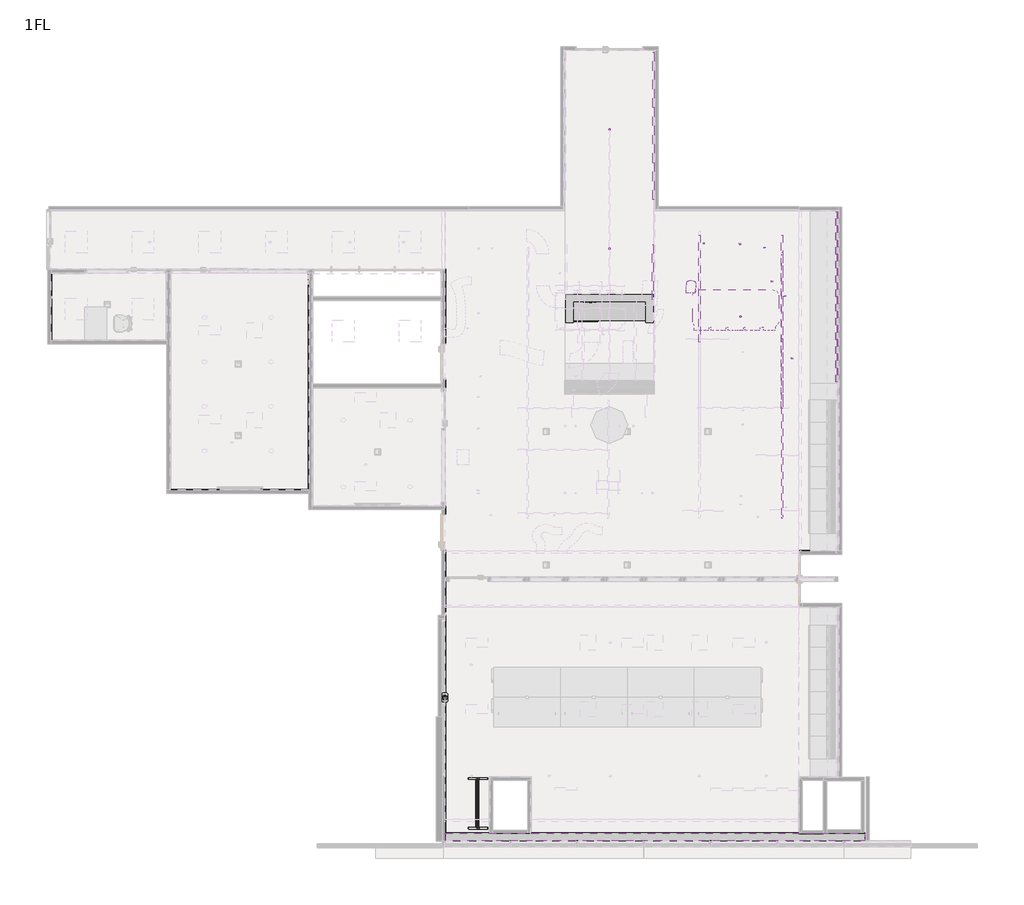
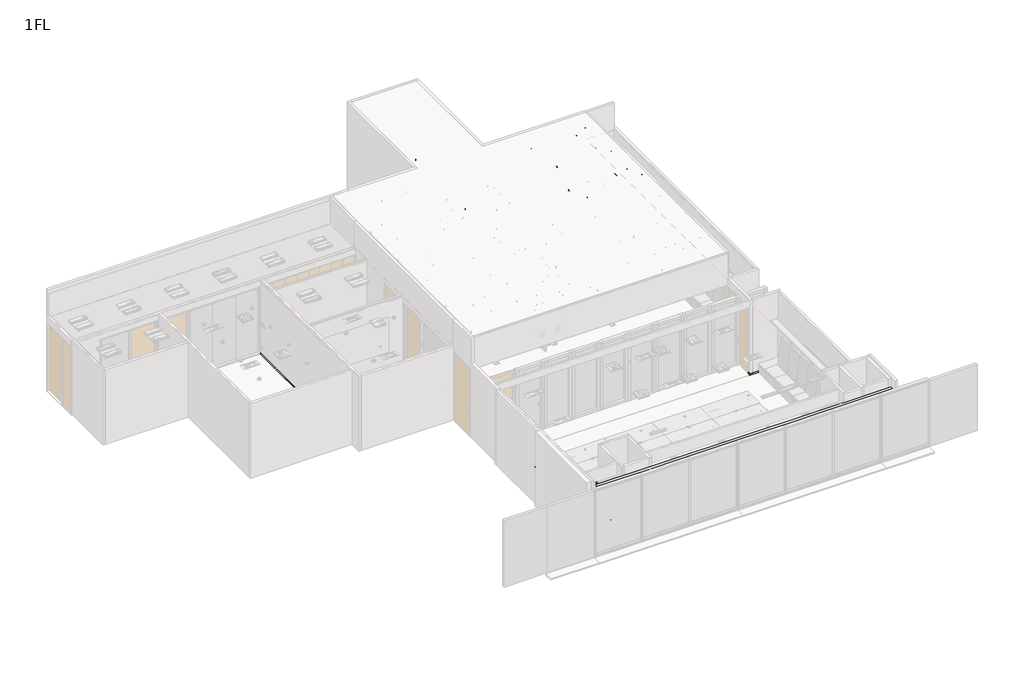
# One storey, part 13 of 13: 25 proxies, 17 light fixtures, 4 fire suppression terminals, 2 switching devices, 1 damper, 1 duct segment.
"""IFC4 building model written with IfcOpenShell, lengths in millimetres."""

from ifc_helpers import new_model, si_unit, frame, origin, place, context, project, spatial, polyline, circle_curve, ellipse_curve, outline, extrude, transform, mapped, element, save
from ifc_brep_helpers import plane_surface, cylinder_surface, advanced_brep
from components import generic_models_21183628, mechanical_equipment_cf5eef75, mechanical_equipment_50cd52de, mechanical_equipment_bcc856de, duct_hanger_845b88a9, duct_hanger_9e32e5b0, duct_hanger_ff72c5ab, perimeter_perimeter_b49f30dc, perimeter_blind_perimeter_blind_f3f7109a, whiteboard_01_whiteboard_01_52306a3d, office_counter_office_counter_5a5246db, chamber_02_chamber_02_f8d2bf4d, sprinkler_01_sprinkler_01_96afb536, line_light_f_3fc1ab52, line_light_f18_eebac381, line_light_l1151_cde67e3c, spot_light_spot_light_b3140007, outlet_01_outlet_443ef776

model = new_model("IFC4")

# Units and contexts
model_context = context("Model", 3, world=origin())
ifc_project = project(units=[si_unit("LENGTHUNIT", "METRE", prefix="MILLI")], contexts=[model_context])

# Site, building, storey
site = spatial("IfcSite", under=ifc_project)
building = spatial("IfcBuilding", under=site)
storey = spatial("IfcBuildingStorey", under=building, Name="1FL", Elevation=500.0)

# Proxies
placement = place(None, origin())
generic_models_shape = generic_models_21183628(model_context)
element("IfcBuildingElementProxy", 1, Name="Webcam_01 : webcam_01", ObjectType="Webcam_01 : webcam_01", at=placement, inside=storey, context=model_context, shape_type="MappedRepresentation", body=[
    mapped(generic_models_shape, transform((11581.5679696, -8079.0124966, 500.0), x_axis=(5.541231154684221e-06, 0.9999999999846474, 0.0), y_axis=(-0.9999999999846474, 5.541231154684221e-06, 0.0), z_axis=(0.0, 0.0, 1.0))),
])
mechanical_equipment_shape = mechanical_equipment_cf5eef75(model_context)
element("IfcBuildingElementProxy", 2, Name="Beared-Hanger : BearedHanger", ObjectType="Beared-Hanger : BearedHanger", at=placement, inside=storey, context=model_context, shape_type="MappedRepresentation", body=[
    mapped(mechanical_equipment_shape, transform((20676.280188, 2953.8665989, 4470.0), x_axis=(0.00012207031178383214, 0.9999999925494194, 0.0), y_axis=(-0.9999999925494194, 0.00012207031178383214, 0.0), z_axis=(0.0, 0.0, 1.0))),
])
mechanical_equipment_2_shape = mechanical_equipment_50cd52de(model_context)
element("IfcBuildingElementProxy", 3, Name="Beared-Hanger : BearedHanger", ObjectType="Beared-Hanger : BearedHanger", at=placement, inside=storey, context=model_context, shape_type="MappedRepresentation", body=[
    mapped(mechanical_equipment_2_shape, transform((20676.4485665, 662.907676, 4470.0), x_axis=(0.0, 1.0, 0.0), y_axis=(-1.0, 0.0, 0.0), z_axis=(0.0, 0.0, 1.0))),
])
mechanical_equipment_3_shape = mechanical_equipment_bcc856de(model_context)
element("IfcBuildingElementProxy", 4, Name="Beared-Hanger : BearedHanger", ObjectType="Beared-Hanger : BearedHanger", at=placement, inside=storey, context=model_context, shape_type="MappedRepresentation", body=[
    mapped(mechanical_equipment_3_shape, transform((18448.1429809, 2953.8665989, 4470.0), x_axis=(0.00012207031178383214, 0.9999999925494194, 0.0), y_axis=(-0.9999999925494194, 0.00012207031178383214, 0.0), z_axis=(0.0, 0.0, 1.0))),
])
element("IfcBuildingElementProxy", 5, Name="B-3", ObjectType="B-3", at=placement, inside=storey, context=model_context, shape_type="SweptSolid", body=[
    extrude(outline(polyline([(21152.0692788, -11750.8073642), (21132.0692788, -11750.8073642), (21132.0692788, -10225.3078391), (21152.0692788, -10245.3078391), (21152.0692788, -11750.8073642)])), frame((0.0, 0.0, 500.0), z_axis=(0.0, 0.0, 1.0), x_axis=(1.0, 0.0, 0.0)), (0.0, 0.0, 1.0), 60.0),
])
element("IfcBuildingElementProxy", 6, Name="B-3", ObjectType="B-3", at=placement, inside=storey, context=model_context, shape_type="SweptSolid", body=[
    extrude(outline(polyline([(21152.0692788, -10245.3078391), (21132.0692788, -10225.3078391), (21440.569283, -10225.3078391), (21440.569283, -10245.3078391), (21152.0692788, -10245.3078391)])), frame((0.0, 0.0, 500.0), z_axis=(0.0, 0.0, 1.0), x_axis=(1.0, 0.0, 0.0)), (0.0, 0.0, 1.0), 60.0),
])
element("IfcBuildingElementProxy", 7, Name="B-3", ObjectType="B-3", at=placement, inside=storey, context=model_context, shape_type="SweptSolid", body=[
    extrude(outline(polyline([(11514.5680096, -11953.3067556), (11494.5680096, -11953.3067556), (11494.5680096, -7616.6876279), (11514.5680096, -7616.6876279), (11514.5680096, -11953.3067556)])), frame((0.0, 0.0, 500.0), z_axis=(0.0, 0.0, 1.0), x_axis=(1.0, 0.0, 0.0)), (0.0, 0.0, 1.0), 60.0),
])
element("IfcBuildingElementProxy", 8, Name="B-3", ObjectType="B-3", at=placement, inside=storey, context=model_context, shape_type="SweptSolid", body=[
    extrude(outline(polyline([(12795.5692789, -10235.8078391), (12775.5692789, -10215.8078391), (13910.5692789, -10215.8078391), (13890.5692789, -10235.8078391), (12795.5692789, -10235.8078391)])), frame((0.0, 0.0, 500.0), z_axis=(0.0, 0.0, 1.0), x_axis=(1.0, 0.0, 0.0)), (0.0, 0.0, 1.0), 60.0),
    extrude(outline(polyline([(13890.5692789, -10235.8078391), (13910.5692789, -10215.8078391), (13910.5692789, -11738.3078178), (13890.5692789, -11738.3078178), (13890.5692789, -10235.8078391)])), frame((0.0, 0.0, 500.0), z_axis=(0.0, 0.0, 1.0), x_axis=(1.0, 0.0, 0.0)), (0.0, 0.0, 1.0), 60.0),
    extrude(outline(polyline([(12775.5692789, -10215.8078391), (12795.5692789, -10235.8078391), (12795.5692789, -11738.3078178), (12775.5692789, -11738.3078178), (12775.5692789, -10215.8078391)])), frame((0.0, 0.0, 500.0), z_axis=(0.0, 0.0, 1.0), x_axis=(1.0, 0.0, 0.0)), (0.0, 0.0, 1.0), 60.0),
])
element("IfcBuildingElementProxy", 9, Name="B-3", ObjectType="B-3", at=placement, inside=storey, context=model_context, shape_type="SweptSolid", body=[
    extrude(outline(polyline([(21142.5692788, -11750.8073642), (21122.5692788, -11750.8073642), (21122.5692788, -10215.8078391), (21142.5692788, -10235.8078391), (21142.5692788, -11750.8073642)])), frame((0.0, 0.0, 500.0), z_axis=(0.0, 0.0, 1.0), x_axis=(1.0, 0.0, 0.0)), (0.0, 0.0, 1.0), 60.0),
])
element("IfcBuildingElementProxy", 10, Name="B-3", ObjectType="B-3", at=placement, inside=storey, context=model_context, shape_type="SweptSolid", body=[
    extrude(outline(polyline([(21142.5692788, -10235.8078391), (21122.5692788, -10215.8078391), (21855.3192871, -10215.8078391), (21855.3192871, -10235.8078391), (21142.5692788, -10235.8078391)])), frame((0.0, 0.0, 500.0), z_axis=(0.0, 0.0, 1.0), x_axis=(1.0, 0.0, 0.0)), (0.0, 0.0, 1.0), 60.0),
])
element("IfcBuildingElementProxy", 11, Name="B-3", ObjectType="B-3", at=placement, inside=storey, context=model_context, shape_type="SweptSolid", body=[
    extrude(outline(polyline([(7923.0680096, -2490.4226633), (7903.0680096, -2470.4226633), (7903.0680096, 3371.9345805), (7923.0680096, 3371.9345805), (7923.0680096, -2490.4226633)])), frame((0.0, 0.0, 500.0), z_axis=(0.0, 0.0, 1.0), x_axis=(1.0, 0.0, 0.0)), (0.0, 0.0, 1.0), 60.0),
    extrude(outline(polyline([(4170.4103689, -2490.4226633), (4190.4103689, -2470.4226633), (7903.0680096, -2470.4226633), (7923.0680096, -2490.4226633), (4170.4103689, -2490.4226633)])), frame((0.0, 0.0, 500.0), z_axis=(0.0, 0.0, 1.0), x_axis=(1.0, 0.0, 0.0)), (0.0, 0.0, 1.0), 60.0),
    extrude(outline(polyline([(4170.4103689, 3371.9345805), (4190.4103689, 3371.9345805), (4190.4103689, -2470.4226633), (4170.4103689, -2490.4226633), (4170.4103689, 3371.9345805)])), frame((0.0, 0.0, 500.0), z_axis=(0.0, 0.0, 1.0), x_axis=(1.0, 0.0, 0.0)), (0.0, 0.0, 1.0), 60.0),
])
element("IfcBuildingElementProxy", 12, Name="B-3", ObjectType="B-3", at=placement, inside=storey, context=model_context, shape_type="SweptSolid", body=[
    extrude(outline(polyline([(4089.3903689, 1547.4345805), (4069.3903689, 1567.4345805), (4069.3903689, 3371.9345805), (4089.3903689, 3371.9345805), (4089.3903689, 1547.4345805)])), frame((0.0, 0.0, 500.0), z_axis=(0.0, 0.0, 1.0), x_axis=(1.0, 0.0, 0.0)), (0.0, 0.0, 1.0), 60.0),
    extrude(outline(polyline([(958.1488246, 1547.4345805), (978.1488246, 1567.4345805), (4069.3903689, 1567.4345805), (4089.3903689, 1547.4345805), (958.1488246, 1547.4345805)])), frame((0.0, 0.0, 500.0), z_axis=(0.0, 0.0, 1.0), x_axis=(1.0, 0.0, 0.0)), (0.0, 0.0, 1.0), 60.0),
    extrude(outline(polyline([(958.1488246, 3362.4345805), (978.1488246, 3362.4345805), (978.1488246, 1567.4345805), (958.1488246, 1547.4345805), (958.1488246, 3362.4345805)])), frame((0.0, 0.0, 500.0), z_axis=(0.0, 0.0, 1.0), x_axis=(1.0, 0.0, 0.0)), (0.0, 0.0, 1.0), 60.0),
])
element("IfcBuildingElementProxy", 13, Name="B-3", ObjectType="B-3", at=placement, inside=storey, context=model_context, shape_type="SweptSolid", body=[
    extrude(outline(polyline([(11603.5692788, 1454.6264721), (11583.5692788, 1454.6264721), (11583.5692788, 3458.4345805), (11603.5692788, 3478.4345805), (11603.5692788, 1454.6264721)])), frame((0.0, 0.0, 500.0), z_axis=(0.0, 0.0, 1.0), x_axis=(1.0, 0.0, 0.0)), (0.0, 0.0, 1.0), 60.0),
    extrude(outline(polyline([(11603.5692788, 273.6264721), (11583.5692788, 273.6264721), (11583.5692788, 514.6264721), (11603.5692788, 514.6264721), (11603.5692788, 273.6264721)])), frame((0.0, 0.0, 500.0), z_axis=(0.0, 0.0, 1.0), x_axis=(1.0, 0.0, 0.0)), (0.0, 0.0, 1.0), 60.0),
    extrude(outline(polyline([(11603.5692788, -3149.7997031), (11583.5692788, -3149.7997031), (11583.5692788, -2909.2797031), (11603.5692788, -2909.2797031), (11603.5692788, -3149.7997031)])), frame((0.0, 0.0, 500.0), z_axis=(0.0, 0.0, 1.0), x_axis=(1.0, 0.0, 0.0)), (0.0, 0.0, 1.0), 60.0),
    extrude(outline(polyline([(11603.5692788, -11730.8078391), (11583.5692788, -11730.8078391), (11583.5692788, -4089.7997031), (11603.5692788, -4089.7997031), (11603.5692788, -11730.8078391)])), frame((0.0, 0.0, 500.0), z_axis=(0.0, 0.0, 1.0), x_axis=(1.0, 0.0, 0.0)), (0.0, 0.0, 1.0), 60.0),
    extrude(outline(polyline([(1874.3703689, 3478.4345805), (1874.3703689, 3458.4345805), (952.6488246, 3458.4345805), (952.6488246, 3478.4345805), (1874.3703689, 3478.4345805)])), frame((0.0, 0.0, 500.0), z_axis=(0.0, 0.0, 1.0), x_axis=(1.0, 0.0, 0.0)), (0.0, 0.0, 1.0), 60.0),
    extrude(outline(polyline([(4185.4103689, 3478.4345805), (4185.4103689, 3458.4345805), (4074.3703689, 3458.4345805), (4074.3703689, 3478.4345805), (4185.4103689, 3478.4345805)])), frame((0.0, 0.0, 500.0), z_axis=(0.0, 0.0, 1.0), x_axis=(1.0, 0.0, 0.0)), (0.0, 0.0, 1.0), 60.0),
    extrude(outline(polyline([(8020.8186442, 3478.4345805), (8020.8186442, 3458.4345805), (7908.0480096, 3458.4345805), (7908.0480096, 3478.4345805), (8020.8186442, 3478.4345805)])), frame((0.0, 0.0, 500.0), z_axis=(0.0, 0.0, 1.0), x_axis=(1.0, 0.0, 0.0)), (0.0, 0.0, 1.0), 60.0),
    extrude(outline(polyline([(11603.5692788, 3478.4345805), (11583.5692788, 3458.4345805), (11485.8186442, 3458.4345805), (11485.8186442, 3478.4345805), (11603.5692788, 3478.4345805)])), frame((0.0, 0.0, 500.0), z_axis=(0.0, 0.0, 1.0), x_axis=(1.0, 0.0, 0.0)), (0.0, 0.0, 1.0), 60.0),
])
element("IfcBuildingElementProxy", 14, Name="B-3", ObjectType="B-3", at=placement, inside=storey, context=model_context, shape_type="SweptSolid", body=[
    extrude(outline(polyline([(8024.0680096, -2904.2797031), (8004.0680096, -2924.2797031), (8004.0680096, 288.6264721), (8024.0680096, 268.6264721), (8024.0680096, -2904.2797031)])), frame((0.0, 0.0, 500.0), z_axis=(0.0, 0.0, 1.0), x_axis=(1.0, 0.0, 0.0)), (0.0, 0.0, 1.0), 60.0),
    extrude(outline(polyline([(8024.0680096, 268.6264721), (8004.0680096, 288.6264721), (11487.5692788, 288.6264721), (11487.5692788, 268.6264721), (8024.0680096, 268.6264721)])), frame((0.0, 0.0, 500.0), z_axis=(0.0, 0.0, 1.0), x_axis=(1.0, 0.0, 0.0)), (0.0, 0.0, 1.0), 60.0),
    extrude(outline(polyline([(11482.0692788, -2904.2797031), (11482.0692788, -2924.2797031), (8004.0680096, -2924.2797031), (8024.0680096, -2904.2797031), (11482.0692788, -2904.2797031)])), frame((0.0, 0.0, 500.0), z_axis=(0.0, 0.0, 1.0), x_axis=(1.0, 0.0, 0.0)), (0.0, 0.0, 1.0), 60.0),
])
element("IfcBuildingElementProxy", 15, Name="B-3", ObjectType="B-3", at=placement, inside=storey, context=model_context, shape_type="SweptSolid", body=[
    extrude(outline(polyline([(21440.569283, 5076.6921609), (21440.569283, 5056.6921609), (21127.5692788, 5056.6921609), (21127.5692788, 5076.6921609), (21440.569283, 5076.6921609)])), frame((0.0, 0.0, 500.0), z_axis=(0.0, 0.0, 1.0), x_axis=(1.0, 0.0, 0.0)), (0.0, 0.0, 1.0), 60.0),
])
element("IfcBuildingElementProxy", 16, Name="B-3", ObjectType="B-3", at=placement, inside=storey, context=model_context, shape_type="SweptSolid", body=[
    extrude(outline(polyline([(21142.5692788, -5627.2797031), (21122.5692788, -5647.2797031), (21122.5692788, -5533.7937075), (21142.5692788, -5533.7937075), (21142.5692788, -5627.2797031)])), frame((0.0, 0.0, 500.0), z_axis=(0.0, 0.0, 1.0), x_axis=(1.0, 0.0, 0.0)), (0.0, 0.0, 1.0), 60.0),
    extrude(outline(polyline([(21142.5692788, -4228.7937075), (21122.5692788, -4228.7937075), (21122.5692788, -4115.2797031), (21142.5692788, -4135.2797031), (21142.5692788, -4228.7937075)])), frame((0.0, 0.0, 500.0), z_axis=(0.0, 0.0, 1.0), x_axis=(1.0, 0.0, 0.0)), (0.0, 0.0, 1.0), 60.0),
    extrude(outline(polyline([(21142.5692788, -4135.2797031), (21122.5692788, -4115.2797031), (21440.569283, -4115.2797031), (21440.569283, -4135.2797031), (21142.5692788, -4135.2797031)])), frame((0.0, 0.0, 500.0), z_axis=(0.0, 0.0, 1.0), x_axis=(1.0, 0.0, 0.0)), (0.0, 0.0, 1.0), 60.0),
    extrude(outline(polyline([(21441.8692788, -5627.2797031), (21441.8692788, -5647.2797031), (21122.5692788, -5647.2797031), (21142.5692788, -5627.2797031), (21441.8692788, -5627.2797031)])), frame((0.0, 0.0, 500.0), z_axis=(0.0, 0.0, 1.0), x_axis=(1.0, 0.0, 0.0)), (0.0, 0.0, 1.0), 60.0),
])
duct_hanger_shape = duct_hanger_845b88a9(model_context)
element("IfcBuildingElementProxy", 17, Name="Duct-hanger : Φ44", ObjectType="Duct-hanger : Φ44", at=placement, inside=storey, context=model_context, shape_type="MappedRepresentation", body=[
    mapped(duct_hanger_shape, transform((20940.8311959, 1075.1705545, 4470.0), x_axis=(1.0, 0.0, 0.0), y_axis=(0.0, 1.0, 0.0), z_axis=(0.0, 0.0, 1.0))),
])
duct_hanger_2_shape = duct_hanger_9e32e5b0(model_context)
element("IfcBuildingElementProxy", 18, Name="Duct-hanger : Φ44", ObjectType="Duct-hanger : Φ44", at=placement, inside=storey, context=model_context, shape_type="MappedRepresentation", body=[
    mapped(duct_hanger_2_shape, transform((20401.6600534, 3150.4171365, 4470.0), x_axis=(1.0, 0.0, 0.0), y_axis=(0.0, 1.0, 0.0), z_axis=(0.0, 0.0, 1.0))),
])
element("IfcBuildingElementProxy", 19, Name="Duct-hanger : Φ44", ObjectType="Duct-hanger : Φ44", at=placement, inside=storey, context=model_context, shape_type="MappedRepresentation", body=[
    mapped(duct_hanger_2_shape, transform((20204.4218942, 4059.6242898, 4470.0), x_axis=(0.0, 1.0, 0.0), y_axis=(-1.0, 0.0, 0.0), z_axis=(0.0, 0.0, 1.0))),
])
element("IfcBuildingElementProxy", 20, Name="Duct-hanger : Φ44", ObjectType="Duct-hanger : Φ44", at=placement, inside=storey, context=model_context, shape_type="MappedRepresentation", body=[
    mapped(duct_hanger_2_shape, transform((20751.67165, 2751.1251443, 4470.0), x_axis=(0.0, 1.0, 0.0), y_axis=(-1.0, 0.0, 0.0), z_axis=(0.0, 0.0, 1.0))),
])
duct_hanger_3_shape = duct_hanger_ff72c5ab(model_context)
element("IfcBuildingElementProxy", 21, Name="Duct-hanger : Φ44", ObjectType="Duct-hanger : Φ44", at=placement, inside=storey, context=model_context, shape_type="MappedRepresentation", body=[
    mapped(duct_hanger_3_shape, transform((18564.6001168, 4173.9663308, 4470.0), x_axis=(1.0, 0.0, 0.0), y_axis=(0.0, 1.0, 0.0), z_axis=(0.0, 0.0, 1.0))),
])
perimeter_perimeter_shape = perimeter_perimeter_b49f30dc(model_context)
element("IfcBuildingElementProxy", 22, Name="Perimeter : Perimeter", ObjectType="Perimeter : Perimeter", at=placement, inside=storey, context=model_context, shape_type="MappedRepresentation", body=[
    mapped(perimeter_perimeter_shape, transform((17252.0686444, -11730.8078391, 515.0), x_axis=(-1.0, 0.0, 0.0), y_axis=(0.0, -1.0, 0.0), z_axis=(0.0, 0.0, 1.0))),
])
perimeter_blind_perimeter_blind_shape = perimeter_blind_perimeter_blind_f3f7109a(model_context)
element("IfcBuildingElementProxy", 23, Name="Perimeter-Blind : Perimeter-Blind", ObjectType="Perimeter-Blind : Perimeter-Blind", at=placement, inside=storey, context=model_context, shape_type="MappedRepresentation", body=[
    mapped(perimeter_blind_perimeter_blind_shape, transform((17252.0686444, -11737.4068287, -1449.9986852), x_axis=(-1.0, 0.0, 0.0), y_axis=(0.0, -1.0, 0.0), z_axis=(0.0, 0.0, 1.0))),
])
whiteboard_01_whiteboard_01_shape = whiteboard_01_whiteboard_01_52306a3d(model_context)
element("IfcBuildingElementProxy", 24, Name="WhiteBoard_01 : whiteboard_01", ObjectType="WhiteBoard_01 : whiteboard_01", at=placement, inside=storey, context=model_context, shape_type="MappedRepresentation", body=[
    mapped(whiteboard_01_whiteboard_01_shape, transform((12479.0692791, -10933.3067556, 500.0), x_axis=(0.0, -1.0, 0.0), y_axis=(1.0, 0.0, 0.0), z_axis=(0.0, 0.0, 1.0))),
])
office_counter_office_counter_shape = office_counter_office_counter_5a5246db(model_context)
element("IfcBuildingElementProxy", 25, Name="office-counter : office-counter", ObjectType="office-counter : office-counter", at=placement, inside=storey, context=model_context, shape_type="MappedRepresentation", body=[
    mapped(office_counter_office_counter_shape, transform((16018.0692788, 2797.1921609, 500.0), x_axis=(1.0, 0.0, 0.0), y_axis=(0.0, 1.0, 0.0), z_axis=(0.0, 0.0, 1.0))),
])

# Damper
chamber_02_chamber_02_shape = chamber_02_chamber_02_f8d2bf4d(model_context)
element("IfcDamper", 26, ObjectType="Chamber-02 : Chamber-02", at=placement, inside=storey, context=model_context, shape_type="MappedRepresentation", body=[
    mapped(chamber_02_chamber_02_shape, transform((19424.6577951, 2415.3365701, 3730.0), x_axis=(1.0, 0.0, 0.0), y_axis=(0.0, 1.0, 0.0), z_axis=(0.0, 0.0, 1.0))),
])

# Duct segment
element("IfcDuctSegment", 27, ObjectType="フレキシブル - 円形", at=placement, inside=storey, context=model_context, shape_type="AdvancedBrep", body=[
    advanced_brep(
    [(18343.4549405, 3095.9590224, 3816.9938043), (18220.3318964, 3181.7027357, 3730.3841533), (18098.461342, 3094.187958, 3816.9938043), (18221.5843861, 3008.4442446, 3903.6034552), (18343.4927298, 3090.7315924, 3811.7649183), (18220.347164, 3179.5907562, 3728.2715855), (18098.4922427, 3089.9134286, 3812.7180844), (18221.6378085, 3001.0542649, 3896.2114172), (18337.9771412, 2838.1102867, 3607.7402454), (18217.7577404, 2838.1102867, 3732.4791554), (18093.0188304, 2838.1102867, 3612.2597546), (18213.2382312, 2838.1102867, 3487.5208446), (18343.0976391, 3048.5159604, 3764.0567311), (18219.9934714, 3141.7985312, 3685.5623222), (18098.1147136, 3049.5742677, 3767.1305106), (18221.2188813, 2956.291697, 3845.6249195), (18341.7498286, 3001.4546158, 3708.1301316), (18218.6094593, 3093.4731366, 3628.1335552), (18096.8082597, 3003.9569647, 3712.9199763), (18219.9486291, 2911.938444, 3792.9165526), (18340.0434725, 2952.1676878, 3657.7911373), (18216.4978271, 3032.4800859, 3565.8385625), (18095.1202854, 2955.2009805, 3663.1232592), (18218.6659308, 2874.8885823, 3755.0758341), (18338.5854532, 2898.2425131, 3621.4937833), (18214.4763333, 2957.714684, 3515.5135282), (18093.6541764, 2900.9766091, 3626.6245141), (18217.7632962, 2841.5044383, 3732.6047692), (18337.9771412, 2864.785393, 3607.7402454), (18213.2382312, 2889.619145, 3487.5208446), (18093.0188304, 2866.0326197, 3612.2597546), (18217.7577404, 2841.1988676, 3732.4791554)],
    [
        (0, 1, circle_curve(frame((18220.9581413, 3095.0734902, 3816.9938043), z_axis=(-0.00511091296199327, 0.7069990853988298, 0.7071959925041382), x_axis=(0.9999738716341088, 0.007228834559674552, 0.0)), 122.5)),
        (1, 2, circle_curve(frame((18220.9581413, 3095.0734902, 3816.9938043), z_axis=(-0.00511091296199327, 0.7069990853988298, 0.7071959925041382), x_axis=(0.9999738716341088, 0.007228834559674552, 0.0)), 122.5)),
        (2, 3, circle_curve(frame((18220.9581413, 3095.0734902, 3816.9938043), z_axis=(-0.00511091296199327, 0.7069990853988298, 0.7071959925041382), x_axis=(0.9999738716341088, 0.007228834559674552, 0.0)), 122.5)),
        (3, 0, circle_curve(frame((18220.9581413, 3095.0734902, 3816.9938043), z_axis=(-0.00511091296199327, 0.7069990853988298, 0.7071959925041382), x_axis=(0.9999738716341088, 0.007228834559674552, 0.0)), 122.5)),
        (0, 4),
        (4, 5, ellipse_curve(frame((18220.9924862, 3090.3225105, 3812.2415014), z_axis=(0.0005457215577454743, 0.685162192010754, 0.7283903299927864), x_axis=(-0.1827664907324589, 0.7161900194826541, -0.6735490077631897)), 122.5587085, 122.5)),
        (5, 1),
        (5, 6, ellipse_curve(frame((18220.9924862, 3090.3225105, 3812.2415014), z_axis=(0.0005457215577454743, 0.685162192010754, 0.7283903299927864), x_axis=(-0.1827664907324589, 0.7161900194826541, -0.6735490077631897)), 122.5587085, 122.5)),
        (6, 2),
        (6, 7, ellipse_curve(frame((18220.9924862, 3090.3225105, 3812.2415014), z_axis=(0.0005457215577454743, 0.685162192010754, 0.7283903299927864), x_axis=(-0.1827664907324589, 0.7161900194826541, -0.6735490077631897)), 122.5587085, 122.5)),
        (7, 3),
        (7, 4, ellipse_curve(frame((18220.9924862, 3090.3225105, 3812.2415014), z_axis=(0.0005457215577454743, 0.685162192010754, 0.7283903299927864), x_axis=(-0.1827664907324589, 0.7161900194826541, -0.6735490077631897)), 122.5587085, 122.5)),
        (8, 9, circle_curve(frame((18215.4979858, 2838.1102867, 3610.0), z_axis=(0.0, -1.0, 0.0), x_axis=(0.9998298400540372, 0.0, -0.018446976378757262)), 122.5)),
        (9, 10, circle_curve(frame((18215.4979858, 2838.1102867, 3610.0), z_axis=(0.0, -1.0, 0.0), x_axis=(0.9998298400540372, 0.0, -0.018446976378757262)), 122.5)),
        (10, 11, circle_curve(frame((18215.4979858, 2838.1102867, 3610.0), z_axis=(0.0, -1.0, 0.0), x_axis=(0.9998298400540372, 0.0, -0.018446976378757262)), 122.5)),
        (11, 8, circle_curve(frame((18215.4979858, 2838.1102867, 3610.0), z_axis=(0.0, -1.0, 0.0), x_axis=(0.9998298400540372, 0.0, -0.018446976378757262)), 122.5)),
        (4, 12),
        (12, 13, ellipse_curve(frame((18220.6061763, 3049.0451141, 3765.5936209), z_axis=(0.0123203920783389, 0.6532712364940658, 0.7570237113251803), x_axis=(-0.44153877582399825, 0.6828269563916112, -0.5820574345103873)), 122.5117588, 122.5)),
        (13, 5),
        (13, 14, ellipse_curve(frame((18220.6061763, 3049.0451141, 3765.5936209), z_axis=(0.0123203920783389, 0.6532712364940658, 0.7570237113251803), x_axis=(-0.44153877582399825, 0.6828269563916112, -0.5820574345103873)), 122.5117588, 122.5)),
        (14, 6),
        (14, 15, ellipse_curve(frame((18220.6061763, 3049.0451141, 3765.5936209), z_axis=(0.0123203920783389, 0.6532712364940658, 0.7570237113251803), x_axis=(-0.44153877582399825, 0.6828269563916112, -0.5820574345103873)), 122.5117588, 122.5)),
        (15, 7),
        (15, 12, ellipse_curve(frame((18220.6061763, 3049.0451141, 3765.5936209), z_axis=(0.0123203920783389, 0.6532712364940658, 0.7570237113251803), x_axis=(-0.44153877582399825, 0.6828269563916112, -0.5820574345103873)), 122.5117588, 122.5)),
        (12, 16),
        (16, 17, ellipse_curve(frame((18219.2790442, 3002.7057903, 3710.5250539), z_axis=(0.02134034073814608, 0.6720508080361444, 0.7401974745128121), x_axis=(-0.07652253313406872, -0.7370962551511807, 0.6714412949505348)), 122.5873676, 122.5)),
        (17, 13),
        (17, 18, ellipse_curve(frame((18219.2790442, 3002.7057903, 3710.5250539), z_axis=(0.02134034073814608, 0.6720508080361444, 0.7401974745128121), x_axis=(-0.07652253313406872, -0.7370962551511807, 0.6714412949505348)), 122.5873676, 122.5)),
        (18, 14),
        (18, 19, ellipse_curve(frame((18219.2790442, 3002.7057903, 3710.5250539), z_axis=(0.02134034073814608, 0.6720508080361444, 0.7401974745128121), x_axis=(-0.07652253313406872, -0.7370962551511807, 0.6714412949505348)), 122.5873676, 122.5)),
        (19, 15),
        (19, 16, ellipse_curve(frame((18219.2790442, 3002.7057903, 3710.5250539), z_axis=(0.02134034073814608, 0.6720508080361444, 0.7401974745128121), x_axis=(-0.07652253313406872, -0.7370962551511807, 0.6714412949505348)), 122.5873676, 122.5)),
        (16, 20),
        (20, 21, ellipse_curve(frame((18217.5818789, 2953.6843341, 3660.4571983), z_axis=(0.0234401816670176, 0.7683542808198, 0.6395953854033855), x_axis=(0.008809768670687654, -0.6399050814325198, 0.7684034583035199)), 123.1366392, 122.5)),
        (21, 17),
        (21, 22, ellipse_curve(frame((18217.5818789, 2953.6843341, 3660.4571983), z_axis=(0.0234401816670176, 0.7683542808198, 0.6395953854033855), x_axis=(0.008809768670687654, -0.6399050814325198, 0.7684034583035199)), 123.1366392, 122.5)),
        (22, 18),
        (22, 23, ellipse_curve(frame((18217.5818789, 2953.6843341, 3660.4571983), z_axis=(0.0234401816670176, 0.7683542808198, 0.6395953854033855), x_axis=(0.008809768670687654, -0.6399050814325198, 0.7684034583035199)), 123.1366392, 122.5)),
        (23, 19),
        (23, 20, ellipse_curve(frame((18217.5818789, 2953.6843341, 3660.4571983), z_axis=(0.0234401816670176, 0.7683542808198, 0.6395953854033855), x_axis=(0.008809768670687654, -0.6399050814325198, 0.7684034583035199)), 123.1366392, 122.5)),
        (20, 24),
        (24, 25, ellipse_curve(frame((18216.1198148, 2899.6095611, 3624.0591487), z_axis=(0.019720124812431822, 0.8815825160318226, 0.47161783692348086), x_axis=(0.027757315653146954, -0.4720104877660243, 0.8811558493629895)), 123.1303804, 122.5)),
        (25, 21),
        (25, 26, ellipse_curve(frame((18216.1198148, 2899.6095611, 3624.0591487), z_axis=(0.019720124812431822, 0.8815825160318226, 0.47161783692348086), x_axis=(0.027757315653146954, -0.4720104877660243, 0.8811558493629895)), 123.1303804, 122.5)),
        (26, 22),
        (26, 27, ellipse_curve(frame((18216.1198148, 2899.6095611, 3624.0591487), z_axis=(0.019720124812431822, 0.8815825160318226, 0.47161783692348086), x_axis=(0.027757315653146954, -0.4720104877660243, 0.8811558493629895)), 123.1303804, 122.5)),
        (27, 23),
        (27, 24, ellipse_curve(frame((18216.1198148, 2899.6095611, 3624.0591487), z_axis=(0.019720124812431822, 0.8815825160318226, 0.47161783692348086), x_axis=(0.027757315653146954, -0.4720104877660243, 0.8811558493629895)), 123.1303804, 122.5)),
        (24, 28),
        (28, 29, ellipse_curve(frame((18215.4979858, 2865.4090063, 3610.0), z_axis=(0.00856973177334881, 0.981012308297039, 0.1937560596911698), x_axis=(0.04334729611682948, -0.19394548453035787, 0.9800541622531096)), 124.8710123, 122.5)),
        (29, 25),
        (29, 30, ellipse_curve(frame((18215.4979858, 2865.4090063, 3610.0), z_axis=(0.00856973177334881, 0.981012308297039, 0.1937560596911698), x_axis=(0.04334729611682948, -0.19394548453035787, 0.9800541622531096)), 124.8710123, 122.5)),
        (30, 26),
        (30, 31, ellipse_curve(frame((18215.4979858, 2865.4090063, 3610.0), z_axis=(0.00856973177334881, 0.981012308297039, 0.1937560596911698), x_axis=(0.04334729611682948, -0.19394548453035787, 0.9800541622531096)), 124.8710123, 122.5)),
        (31, 27),
        (31, 28, ellipse_curve(frame((18215.4979858, 2865.4090063, 3610.0), z_axis=(0.00856973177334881, 0.981012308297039, 0.1937560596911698), x_axis=(0.04334729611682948, -0.19394548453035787, 0.9800541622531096)), 124.8710123, 122.5)),
        (28, 8),
        (11, 29),
        (10, 30),
        (9, 31),
    ],
    [
        plane_surface(frame((18220.9581413, 3181.7061308, 3730.3852851), z_axis=(-0.005110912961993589, 0.7069990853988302, 0.7071959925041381), x_axis=(0.9999869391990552, 0.0036134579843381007, 0.0036144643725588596))),
        cylinder_surface(frame((18220.9581413, 3095.0734902, 3816.9938043), z_axis=(-0.005110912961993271, 0.7069990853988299, 0.7071959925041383), x_axis=(0.9999738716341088, 0.007228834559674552, 0.0)), 122.5),
        plane_surface(frame((18092.9979858, 2838.1102867, 3610.0), z_axis=(0.0, -1.0, 0.0), x_axis=(0.0, 0.0, -1.0))),
        cylinder_surface(frame((18220.9924862, 3090.3225105, 3812.2415014), z_axis=(0.0062018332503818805, 0.6626688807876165, 0.7488868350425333), x_axis=(0.9999678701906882, -0.0003060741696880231, -0.008010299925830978)), 122.5),
        cylinder_surface(frame((18220.6061763, 3049.0451141, 3765.5936209), z_axis=(0.018436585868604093, 0.6437481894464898, 0.7650152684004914), x_axis=(0.9998186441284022, -0.008218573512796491, -0.01717946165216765)), 122.5),
        cylinder_surface(frame((18219.2790442, 3002.7057903, 3710.5250539), z_axis=(0.024213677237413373, 0.6993954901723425, 0.7143246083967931), x_axis=(0.9996864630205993, -0.012381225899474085, -0.02176421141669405)), 122.5),
        cylinder_surface(frame((18217.5818789, 2953.6843341, 3660.4571983), z_axis=(0.02242430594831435, 0.8293680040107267, 0.5582525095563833), x_axis=(0.9996864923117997, -0.01238026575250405, -0.021763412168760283)), 122.5),
        cylinder_surface(frame((18216.1198148, 2899.6095611, 3624.0591487), z_axis=(0.016814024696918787, 0.9247702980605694, 0.3801541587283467), x_axis=(0.9997442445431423, -0.009798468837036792, -0.020382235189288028)), 122.5),
        cylinder_surface(frame((18215.4979858, 2865.4090063, 3610.0), z_axis=(0.0, 1.0, 0.0), x_axis=(0.9998298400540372, 0.0, -0.018446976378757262)), 122.5),
    ],
    [
        (0, [[1, 2, 3, 4]]),
        (1, [[-1, 5, 6, 7]]),
        (1, [[-2, -7, 8, 9]]),
        (1, [[-3, -9, 10, 11]]),
        (1, [[-4, -11, 12, -5]]),
        (2, [[13, 14, 15, 16]]),
        (3, [[-6, 17, 18, 19]]),
        (3, [[-8, -19, 20, 21]]),
        (3, [[-10, -21, 22, 23]]),
        (3, [[-12, -23, 24, -17]]),
        (4, [[-18, 25, 26, 27]]),
        (4, [[-20, -27, 28, 29]]),
        (4, [[-22, -29, 30, 31]]),
        (4, [[-24, -31, 32, -25]]),
        (5, [[-26, 33, 34, 35]]),
        (5, [[-28, -35, 36, 37]]),
        (5, [[-30, -37, 38, 39]]),
        (5, [[-32, -39, 40, -33]]),
        (6, [[-34, 41, 42, 43]]),
        (6, [[-36, -43, 44, 45]]),
        (6, [[-38, -45, 46, 47]]),
        (6, [[-40, -47, 48, -41]]),
        (7, [[-42, 49, 50, 51]]),
        (7, [[-44, -51, 52, 53]]),
        (7, [[-46, -53, 54, 55]]),
        (7, [[-48, -55, 56, -49]]),
        (8, [[-50, 57, -16, 58]]),
        (8, [[-52, -58, -15, 59]]),
        (8, [[-54, -59, -14, 60]]),
        (8, [[-56, -60, -13, -57]]),
    ],
),
])

# Fire suppression terminals
sprinkler_01_sprinkler_01_shape = sprinkler_01_sprinkler_01_96afb536(model_context)
element("IfcFireSuppressionTerminal", 28, ObjectType="Sprinkler_01 : Sprinkler_01", at=placement, inside=storey, context=model_context, shape_type="MappedRepresentation", body=[
    mapped(sprinkler_01_sprinkler_01_shape, transform((19541.9904711, 4157.8648113, 3427.4918376), x_axis=(1.0, 0.0, 0.0), y_axis=(0.0, 1.0, 0.0), z_axis=(0.0, 0.0, 1.0))),
])
element("IfcFireSuppressionTerminal", 29, ObjectType="Sprinkler_01 : Sprinkler_01", at=placement, inside=storey, context=model_context, shape_type="MappedRepresentation", body=[
    mapped(sprinkler_01_sprinkler_01_shape, transform((16016.9626359, 4031.9508153, 3062.3792219), x_axis=(1.0, 0.0, 0.0), y_axis=(0.0, 1.0, 0.0), z_axis=(0.0, 0.0, 1.0))),
])
element("IfcFireSuppressionTerminal", 30, ObjectType="Sprinkler_01 : Sprinkler_01", at=placement, inside=storey, context=model_context, shape_type="MappedRepresentation", body=[
    mapped(sprinkler_01_sprinkler_01_shape, transform((19546.7798053, 2198.0106853, 3408.50272), x_axis=(1.0, 0.0, 0.0), y_axis=(0.0, 1.0, 0.0), z_axis=(0.0, 0.0, 1.0))),
])
element("IfcFireSuppressionTerminal", 31, ObjectType="Sprinkler_01 : Sprinkler_01", at=placement, inside=storey, context=model_context, shape_type="MappedRepresentation", body=[
    mapped(sprinkler_01_sprinkler_01_shape, transform((16016.638579, 7249.8244184, 3062.379234), x_axis=(1.0, 0.0, 0.0), y_axis=(0.0, 1.0, 0.0), z_axis=(0.0, 0.0, 1.0))),
])

# Light fixtures
line_light_f_shape = line_light_f_3fc1ab52(model_context)
element("IfcLightFixture", 32, ObjectType="Line-Light : F", at=placement, inside=storey, context=model_context, shape_type="MappedRepresentation", body=[
    mapped(line_light_f_shape, transform((17219.0692785, 5854.9421609, 3150.0), x_axis=(0.0, -1.0, 0.0), y_axis=(1.0, 0.0, 0.0), z_axis=(0.0, 0.0, 1.0))),
])
line_light_f18_shape = line_light_f18_eebac381(model_context)
element("IfcLightFixture", 33, ObjectType="Line-Light : F18", at=placement, inside=storey, context=model_context, shape_type="MappedRepresentation", body=[
    mapped(line_light_f18_shape, transform((17219.0692785, 8587.9421609, 3150.0), x_axis=(0.0, -1.0, 0.0), y_axis=(1.0, 0.0, 0.0), z_axis=(0.0, 0.0, 1.0))),
])
element("IfcLightFixture", 34, ObjectType="Line-Light : F18", at=placement, inside=storey, context=model_context, shape_type="MappedRepresentation", body=[
    mapped(line_light_f18_shape, transform((17199.0692831, 3400.7416294, 3150.0), x_axis=(0.0, -1.0, 0.0), y_axis=(1.0, 0.0, 0.0), z_axis=(0.0, 0.0, 1.0))),
])
element("IfcLightFixture", 35, ObjectType="Line-Light : F18", at=placement, inside=storey, context=model_context, shape_type="MappedRepresentation", body=[
    mapped(line_light_f18_shape, transform((17219.0692785, 7097.9421609, 3150.0), x_axis=(0.0, -1.0, 0.0), y_axis=(1.0, 0.0, 0.0), z_axis=(0.0, 0.0, 1.0))),
])
line_light_l1151_shape = line_light_l1151_cde67e3c(model_context)
element("IfcLightFixture", 36, ObjectType="Line-Light : L1151", at=placement, inside=storey, context=model_context, shape_type="MappedRepresentation", body=[
    mapped(line_light_l1151_shape, transform((22119.569283, 4459.8333151, 1975.94), x_axis=(0.0, 1.0, 0.0), y_axis=(-1.0, 0.0, 0.0), z_axis=(0.0, 0.0, 1.0))),
])
element("IfcLightFixture", 37, ObjectType="Line-Light : L1151", at=placement, inside=storey, context=model_context, shape_type="MappedRepresentation", body=[
    mapped(line_light_l1151_shape, transform((22119.569283, 3308.8333151, 1975.94), x_axis=(0.0, 1.0, 0.0), y_axis=(-1.0, 0.0, 0.0), z_axis=(0.0, 0.0, 1.0))),
])
element("IfcLightFixture", 38, ObjectType="Line-Light : L1151", at=placement, inside=storey, context=model_context, shape_type="MappedRepresentation", body=[
    mapped(line_light_l1151_shape, transform((22119.569283, 2157.8333151, 1975.94), x_axis=(0.0, 1.0, 0.0), y_axis=(-1.0, 0.0, 0.0), z_axis=(0.0, 0.0, 1.0))),
])
element("IfcLightFixture", 39, ObjectType="Line-Light : L1151", at=placement, inside=storey, context=model_context, shape_type="MappedRepresentation", body=[
    mapped(line_light_l1151_shape, transform((22119.569283, 1006.8333151, 1975.94), x_axis=(0.0, 1.0, 0.0), y_axis=(-1.0, 0.0, 0.0), z_axis=(0.0, 0.0, 1.0))),
])
element("IfcLightFixture", 40, ObjectType="Line-Light : L1151", at=placement, inside=storey, context=model_context, shape_type="MappedRepresentation", body=[
    mapped(line_light_l1151_shape, transform((22120.569283, 4459.8333151, 2365.0), x_axis=(0.0, 1.0, 0.0), y_axis=(-1.0, 0.0, 0.0), z_axis=(0.0, 0.0, 1.0))),
])
element("IfcLightFixture", 41, ObjectType="Line-Light : L1151", at=placement, inside=storey, context=model_context, shape_type="MappedRepresentation", body=[
    mapped(line_light_l1151_shape, transform((22120.569283, 3308.8333151, 2365.0), x_axis=(0.0, 1.0, 0.0), y_axis=(-1.0, 0.0, 0.0), z_axis=(0.0, 0.0, 1.0))),
])
element("IfcLightFixture", 42, ObjectType="Line-Light : L1151", at=placement, inside=storey, context=model_context, shape_type="MappedRepresentation", body=[
    mapped(line_light_l1151_shape, transform((22120.569283, 2157.8333151, 2365.0), x_axis=(0.0, 1.0, 0.0), y_axis=(-1.0, 0.0, 0.0), z_axis=(0.0, 0.0, 1.0))),
])
element("IfcLightFixture", 43, ObjectType="Line-Light : L1151", at=placement, inside=storey, context=model_context, shape_type="MappedRepresentation", body=[
    mapped(line_light_l1151_shape, transform((22120.569283, 1006.8333151, 2365.0), x_axis=(0.0, 1.0, 0.0), y_axis=(-1.0, 0.0, 0.0), z_axis=(0.0, 0.0, 1.0))),
])
element("IfcLightFixture", 44, ObjectType="Line-Light : L1151", at=placement, inside=storey, context=model_context, shape_type="MappedRepresentation", body=[
    mapped(line_light_l1151_shape, transform((22166.569283, 4459.8333151, 2400.0), x_axis=(0.0, 1.0, 0.0), y_axis=(1.0, 0.0, 0.0), z_axis=(0.0, 0.0, -1.0))),
])
element("IfcLightFixture", 45, ObjectType="Line-Light : L1151", at=placement, inside=storey, context=model_context, shape_type="MappedRepresentation", body=[
    mapped(line_light_l1151_shape, transform((22166.569283, 3308.8333151, 2400.0), x_axis=(0.0, 1.0, 0.0), y_axis=(1.0, 0.0, 0.0), z_axis=(0.0, 0.0, -1.0))),
])
element("IfcLightFixture", 46, ObjectType="Line-Light : L1151", at=placement, inside=storey, context=model_context, shape_type="MappedRepresentation", body=[
    mapped(line_light_l1151_shape, transform((22166.569283, 2157.8333151, 2400.0), x_axis=(0.0, 1.0, 0.0), y_axis=(1.0, 0.0, 0.0), z_axis=(0.0, 0.0, -1.0))),
])
element("IfcLightFixture", 47, ObjectType="Line-Light : L1151", at=placement, inside=storey, context=model_context, shape_type="MappedRepresentation", body=[
    mapped(line_light_l1151_shape, transform((22166.569283, 1006.8333151, 2400.0), x_axis=(0.0, 1.0, 0.0), y_axis=(1.0, 0.0, 0.0), z_axis=(0.0, 0.0, -1.0))),
])
spot_light_spot_light_shape = spot_light_spot_light_b3140007(model_context)
element("IfcLightFixture", 48, ObjectType="Spot-Light : Spot-Light", at=placement, inside=storey, context=model_context, shape_type="MappedRepresentation", body=[
    mapped(spot_light_spot_light_shape, transform((20676.8129488, 342.6397317, 3378.70234), x_axis=(-1.0000000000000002, 0.0, 0.0), y_axis=(0.0, 1.0000000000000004, 0.0), z_axis=(0.0, 0.0, -1.0000000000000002))),
])

# Switching devices
outlet_01_outlet_shape = outlet_01_outlet_443ef776(model_context)
element("IfcSwitchingDevice", 49, ObjectType="Outlet_01 : Outlet", at=placement, inside=storey, context=model_context, shape_type="MappedRepresentation", body=[
    mapped(outlet_01_outlet_shape, transform((22182.569283, 868.5354226, 1639.9996422), x_axis=(0.0, 1.0, 0.0), y_axis=(0.0, 0.0, -1.0), z_axis=(-1.0, 0.0, 0.0))),
])
element("IfcSwitchingDevice", 50, ObjectType="Outlet_01 : Outlet", at=placement, inside=storey, context=model_context, shape_type="MappedRepresentation", body=[
    mapped(outlet_01_outlet_shape, transform((22182.569283, 4579.0127175, 1639.9997948), x_axis=(0.0, 1.0, 0.0), y_axis=(0.0, 0.0, -1.0), z_axis=(-1.0, 0.0, 0.0))),
])

save(model, "model.ifc")
